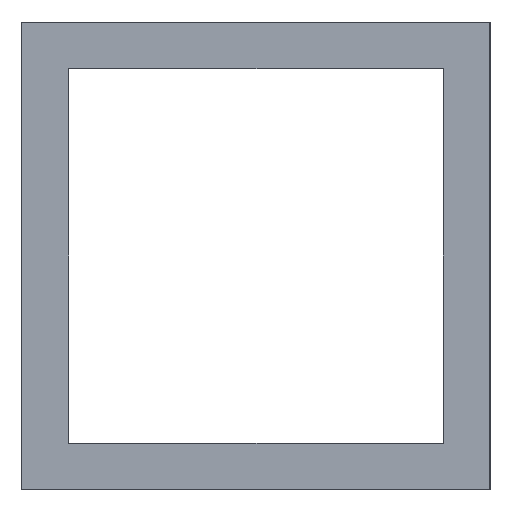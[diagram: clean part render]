
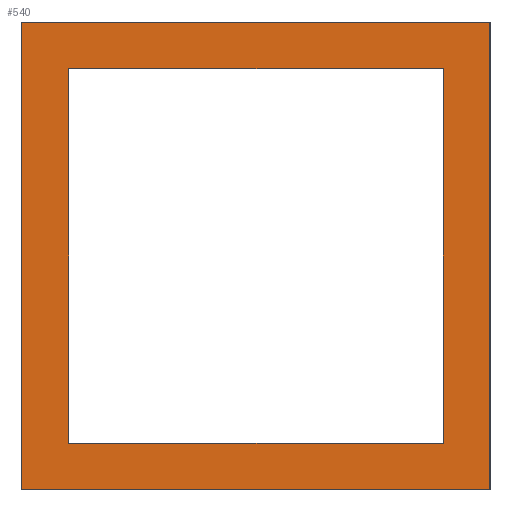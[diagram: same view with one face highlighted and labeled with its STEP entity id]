
A CAD part, left-side view. The second image highlights one B-rep face of the part: STEP entity #540.
In plain terms, the highlighted planar face has unit normal (-1, 0, 0).
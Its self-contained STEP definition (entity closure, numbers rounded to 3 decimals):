
#278=ORIENTED_EDGE('',*,*,#379,.F.);
#279=ORIENTED_EDGE('',*,*,#382,.F.);
#280=ORIENTED_EDGE('',*,*,#384,.F.);
#281=ORIENTED_EDGE('',*,*,#375,.F.);
#282=ORIENTED_EDGE('',*,*,#386,.F.);
#283=ORIENTED_EDGE('',*,*,#387,.F.);
#284=ORIENTED_EDGE('',*,*,#388,.F.);
#285=ORIENTED_EDGE('',*,*,#389,.F.);
#311=VECTOR('',#425,1.);
#315=VECTOR('',#431,1.);
#318=VECTOR('',#436,1.);
#320=VECTOR('',#440,1.);
#322=VECTOR('',#444,1.);
#323=VECTOR('',#445,1.);
#324=VECTOR('',#446,1.);
#325=VECTOR('',#447,1.);
#335=LINE('',#471,#311);
#339=LINE('',#479,#315);
#342=LINE('',#485,#318);
#344=LINE('',#488,#320);
#346=LINE('',#493,#322);
#347=LINE('',#495,#323);
#348=LINE('',#497,#324);
#349=LINE('',#498,#325);
#358=VERTEX_POINT('',#467);
#360=VERTEX_POINT('',#470);
#362=VERTEX_POINT('',#476);
#364=VERTEX_POINT('',#482);
#366=VERTEX_POINT('',#491);
#367=VERTEX_POINT('',#492);
#368=VERTEX_POINT('',#494);
#369=VERTEX_POINT('',#496);
#375=EDGE_CURVE('',#358,#360,#335,.T.);
#379=EDGE_CURVE('',#362,#358,#339,.T.);
#382=EDGE_CURVE('',#364,#362,#342,.T.);
#384=EDGE_CURVE('',#360,#364,#344,.T.);
#386=EDGE_CURVE('',#366,#367,#346,.T.);
#387=EDGE_CURVE('',#368,#366,#347,.T.);
#388=EDGE_CURVE('',#369,#368,#348,.T.);
#389=EDGE_CURVE('',#367,#369,#349,.T.);
#402=EDGE_LOOP('',(#278,#279,#280,#281));
#403=EDGE_LOOP('',(#282,#283,#284,#285));
#414=FACE_BOUND('',#402,.T.);
#415=FACE_BOUND('',#403,.T.);
#425=DIRECTION('',(0.,0.,40.));
#431=DIRECTION('',(0.,40.,0.));
#436=DIRECTION('',(0.,0.,-40.));
#440=DIRECTION('',(0.,-40.,0.));
#442=DIRECTION('',(-1.,0.,0.));
#443=DIRECTION('',(0.,1.,0.));
#444=DIRECTION('',(0.,0.,32.));
#445=DIRECTION('',(0.,-32.,0.));
#446=DIRECTION('',(0.,0.,-32.));
#447=DIRECTION('',(0.,32.,0.));
#467=CARTESIAN_POINT('',(-935.,20.,-20.));
#470=CARTESIAN_POINT('',(-935.,20.,20.));
#471=CARTESIAN_POINT('',(-935.,20.,-20.));
#476=CARTESIAN_POINT('',(-935.,-20.,-20.));
#479=CARTESIAN_POINT('',(-935.,-20.,-20.));
#482=CARTESIAN_POINT('',(-935.,-20.,20.));
#485=CARTESIAN_POINT('',(-935.,-20.,20.));
#488=CARTESIAN_POINT('',(-935.,20.,20.));
#490=CARTESIAN_POINT('',(-935.,0.,0.));
#491=CARTESIAN_POINT('',(-935.,-16.,-16.));
#492=CARTESIAN_POINT('',(-935.,-16.,16.));
#493=CARTESIAN_POINT('',(-935.,-16.,-16.));
#494=CARTESIAN_POINT('',(-935.,16.,-16.));
#495=CARTESIAN_POINT('',(-935.,16.,-16.));
#496=CARTESIAN_POINT('',(-935.,16.,16.));
#497=CARTESIAN_POINT('',(-935.,16.,16.));
#498=CARTESIAN_POINT('',(-935.,-16.,16.));
#520=AXIS2_PLACEMENT_3D('',#490,#442,#443);
#530=PLANE('',#520);
#540=ADVANCED_FACE('',(#414,#415),#530,.T.);
